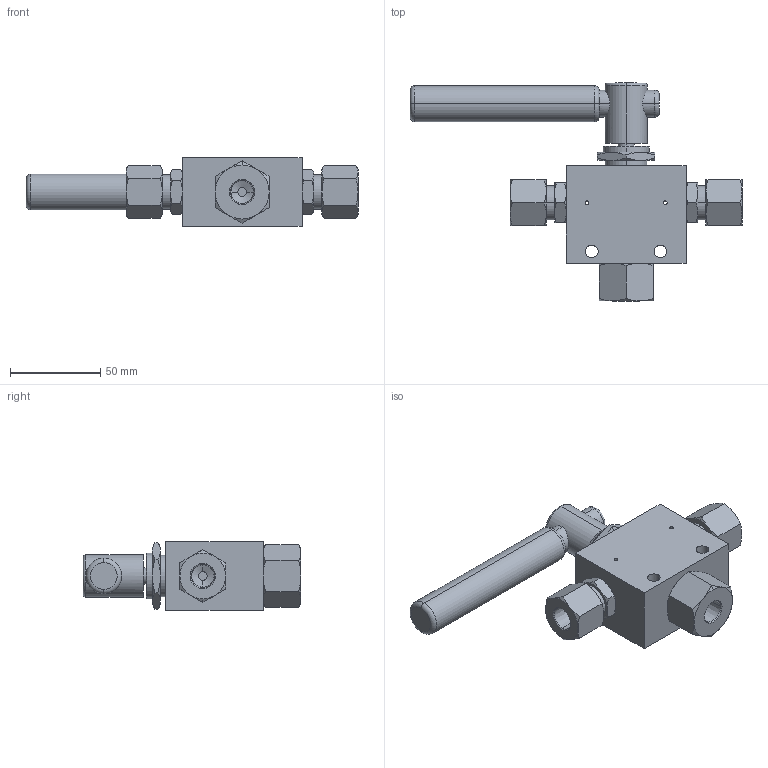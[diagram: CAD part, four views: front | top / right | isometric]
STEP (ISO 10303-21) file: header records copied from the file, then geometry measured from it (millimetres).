
FILE_DESCRIPTION (( 'STEP AP203' ), '1' );
FILE_NAME ('BVP03S04-3-180.STEP', '2022-04-12T10:47:05', ( '' ), ( '' ), 'SwSTEP 2.0', 'SolidWorks 2020', '' );
FILE_SCHEMA (( 'CONFIG_CONTROL_DESIGN' ));
Length unit declared in the file: millimetre
Products named in the file (1): BVP03S04-3-180
Bounding box: 184.33 x 121 x 38 mm (x, y, z)
Volume: 229025.9 mm3; surface area: 41344.9 mm2
Topology: 1 solids, 1 shells, 211 faces, 460 edges, 266 vertices
Faces by surface type: cone 108, plane 59, cylinder 36, torus 8
Entity records: 6431 total; most frequent: CARTESIAN_POINT 1922, DIRECTION 920, ORIENTED_EDGE 912, EDGE_CURVE 456, AXIS2_PLACEMENT_3D 400, VERTEX_POINT 266, EDGE_LOOP 238, ADVANCED_FACE 211
